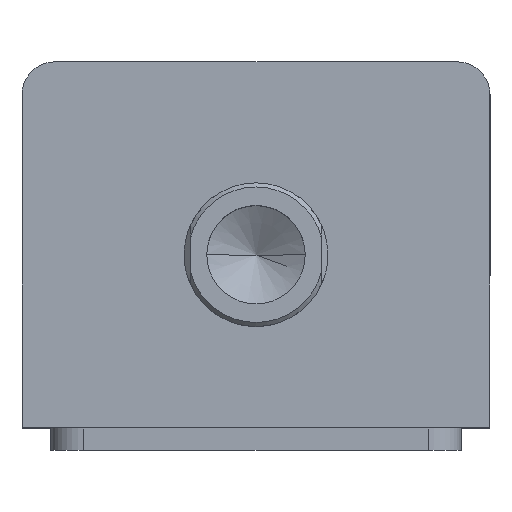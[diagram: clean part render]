
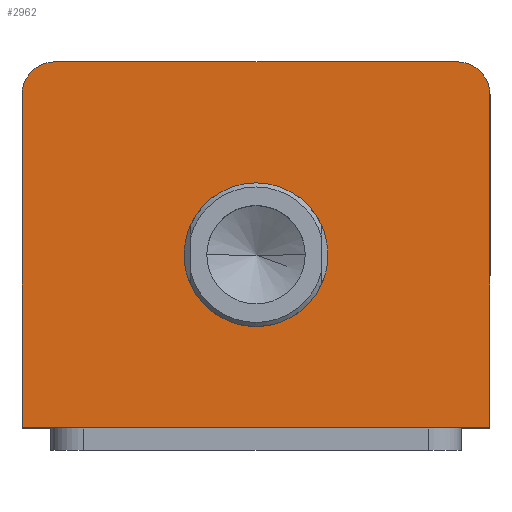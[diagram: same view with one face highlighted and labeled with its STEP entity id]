
A CAD part, top view. The second image highlights one B-rep face of the part: STEP entity #2962.
In plain terms, the highlighted planar face has unit normal (0, 0, 1).
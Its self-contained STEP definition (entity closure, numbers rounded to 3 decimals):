
#171 = VECTOR ( 'NONE', #3365, 1000. ) ;
#174 = LINE ( 'NONE', #3372, #171 ) ;
#178 = CIRCLE ( 'NONE', #2351, 8. ) ;
#189 = EDGE_CURVE ( 'NONE', #2140, #2143, #1329, .T. ) ;
#261 = EDGE_CURVE ( 'NONE', #2121, #2162, #1505, .T. ) ;
#301 = CIRCLE ( 'NONE', #1790, 17.5 ) ;
#385 = FACE_OUTER_BOUND ( 'NONE', #1425, .T. ) ;
#694 = CARTESIAN_POINT ( 'NONE',  ( 57., 44.5, 112. ) ) ;
#747 = CARTESIAN_POINT ( 'NONE',  ( -57., 44.5, 112. ) ) ;
#763 = DIRECTION ( 'NONE',  ( -1., 0., 0. ) ) ;
#837 = DIRECTION ( 'NONE',  ( 0., 1., 0. ) ) ;
#881 = CIRCLE ( 'NONE', #1763, 8. ) ;
#1273 = VECTOR ( 'NONE', #837, 1000. ) ;
#1306 = EDGE_LOOP ( 'NONE', ( #1500, #1494 ) ) ;
#1329 = LINE ( 'NONE', #747, #1338 ) ;
#1338 = VECTOR ( 'NONE', #763, 1000. ) ;
#1425 = EDGE_LOOP ( 'NONE', ( #1493, #1492, #1491, #1490, #1488, #1486 ) ) ;
#1486 = ORIENTED_EDGE ( 'NONE', *, *, #2362, .T. ) ;
#1488 = ORIENTED_EDGE ( 'NONE', *, *, #261, .T. ) ;
#1490 = ORIENTED_EDGE ( 'NONE', *, *, #2341, .T. ) ;
#1491 = ORIENTED_EDGE ( 'NONE', *, *, #2375, .T. ) ;
#1492 = ORIENTED_EDGE ( 'NONE', *, *, #2371, .T. ) ;
#1493 = ORIENTED_EDGE ( 'NONE', *, *, #189, .T. ) ;
#1494 = ORIENTED_EDGE ( 'NONE', *, *, #2332, .F. ) ;
#1500 = ORIENTED_EDGE ( 'NONE', *, *, #2335, .F. ) ;
#1505 = LINE ( 'NONE', #694, #1273 ) ;
#1567 = VECTOR ( 'NONE', #2929, 1000. ) ;
#1571 = LINE ( 'NONE', #2930, #1567 ) ;
#1763 = AXIS2_PLACEMENT_3D ( 'NONE', #2871, #2869, #2868 ) ;
#1790 = AXIS2_PLACEMENT_3D ( 'NONE', #2950, #2948, #2945 ) ;
#1798 = AXIS2_PLACEMENT_3D ( 'NONE', #2984, #2983, #2981 ) ;
#2121 = VERTEX_POINT ( 'NONE', #2992 ) ;
#2123 = VERTEX_POINT ( 'NONE', #2989 ) ;
#2124 = VERTEX_POINT ( 'NONE', #2976 ) ;
#2126 = VERTEX_POINT ( 'NONE', #2966 ) ;
#2140 = VERTEX_POINT ( 'NONE', #2908 ) ;
#2143 = VERTEX_POINT ( 'NONE', #2902 ) ;
#2162 = VERTEX_POINT ( 'NONE', #2854 ) ;
#2165 = VERTEX_POINT ( 'NONE', #2848 ) ;
#2332 = EDGE_CURVE ( 'NONE', #2123, #2124, #3460, .T. ) ;
#2335 = EDGE_CURVE ( 'NONE', #2124, #2123, #301, .T. ) ;
#2341 = EDGE_CURVE ( 'NONE', #2126, #2121, #1571, .T. ) ;
#2351 = AXIS2_PLACEMENT_3D ( 'NONE', #3403, #3398, #3399 ) ;
#2362 = EDGE_CURVE ( 'NONE', #2162, #2140, #881, .T. ) ;
#2371 = EDGE_CURVE ( 'NONE', #2143, #2165, #178, .T. ) ;
#2375 = EDGE_CURVE ( 'NONE', #2165, #2126, #174, .T. ) ;
#2580 = AXIS2_PLACEMENT_3D ( 'NONE', #3378, #3369, #3368 ) ;
#2642 = FACE_BOUND ( 'NONE', #1306, .T. ) ;
#2848 = CARTESIAN_POINT ( 'NONE',  ( -57., 36.5, 112. ) ) ;
#2854 = CARTESIAN_POINT ( 'NONE',  ( 57., 36.5, 112. ) ) ;
#2868 = DIRECTION ( 'NONE',  ( 1., 0., 0. ) ) ;
#2869 = DIRECTION ( 'NONE',  ( 0., 0., 1. ) ) ;
#2871 = CARTESIAN_POINT ( 'NONE',  ( 49., 36.5, 112. ) ) ;
#2902 = CARTESIAN_POINT ( 'NONE',  ( -49., 44.5, 112. ) ) ;
#2908 = CARTESIAN_POINT ( 'NONE',  ( 49., 44.5, 112. ) ) ;
#2929 = DIRECTION ( 'NONE',  ( 1., 0., 0. ) ) ;
#2930 = CARTESIAN_POINT ( 'NONE',  ( -57., -44.5, 112. ) ) ;
#2945 = DIRECTION ( 'NONE',  ( 1., 0., 0. ) ) ;
#2948 = DIRECTION ( 'NONE',  ( 0., 0., 1. ) ) ;
#2950 = CARTESIAN_POINT ( 'NONE',  ( 0., -2.5, 112. ) ) ;
#2962 = ADVANCED_FACE ( 'NONE', ( #2642, #385 ), #3377, .T. ) ;
#2966 = CARTESIAN_POINT ( 'NONE',  ( -57., -44.5, 112. ) ) ;
#2976 = CARTESIAN_POINT ( 'NONE',  ( 17.5, -2.5, 112. ) ) ;
#2981 = DIRECTION ( 'NONE',  ( 1., 0., 0. ) ) ;
#2983 = DIRECTION ( 'NONE',  ( 0., 0., 1. ) ) ;
#2984 = CARTESIAN_POINT ( 'NONE',  ( 0., -2.5, 112. ) ) ;
#2989 = CARTESIAN_POINT ( 'NONE',  ( -17.5, -2.5, 112. ) ) ;
#2992 = CARTESIAN_POINT ( 'NONE',  ( 57., -44.5, 112. ) ) ;
#3365 = DIRECTION ( 'NONE',  ( 0., -1., 0. ) ) ;
#3368 = DIRECTION ( 'NONE',  ( 1., 0., 0. ) ) ;
#3369 = DIRECTION ( 'NONE',  ( 0., 0., 1. ) ) ;
#3372 = CARTESIAN_POINT ( 'NONE',  ( -57., 44.5, 112. ) ) ;
#3377 = PLANE ( 'NONE',  #2580 ) ;
#3378 = CARTESIAN_POINT ( 'NONE',  ( 0., 0., 112. ) ) ;
#3398 = DIRECTION ( 'NONE',  ( 0., 0., 1. ) ) ;
#3399 = DIRECTION ( 'NONE',  ( 1., 0., 0. ) ) ;
#3403 = CARTESIAN_POINT ( 'NONE',  ( -49., 36.5, 112. ) ) ;
#3460 = CIRCLE ( 'NONE', #1798, 17.5 ) ;
